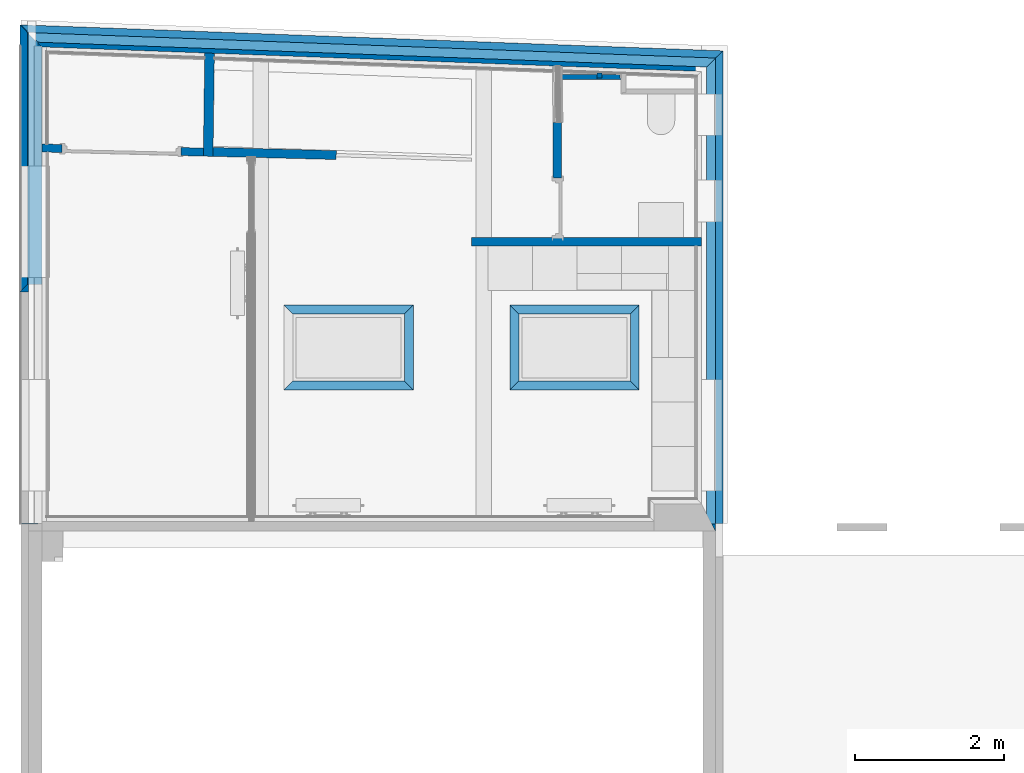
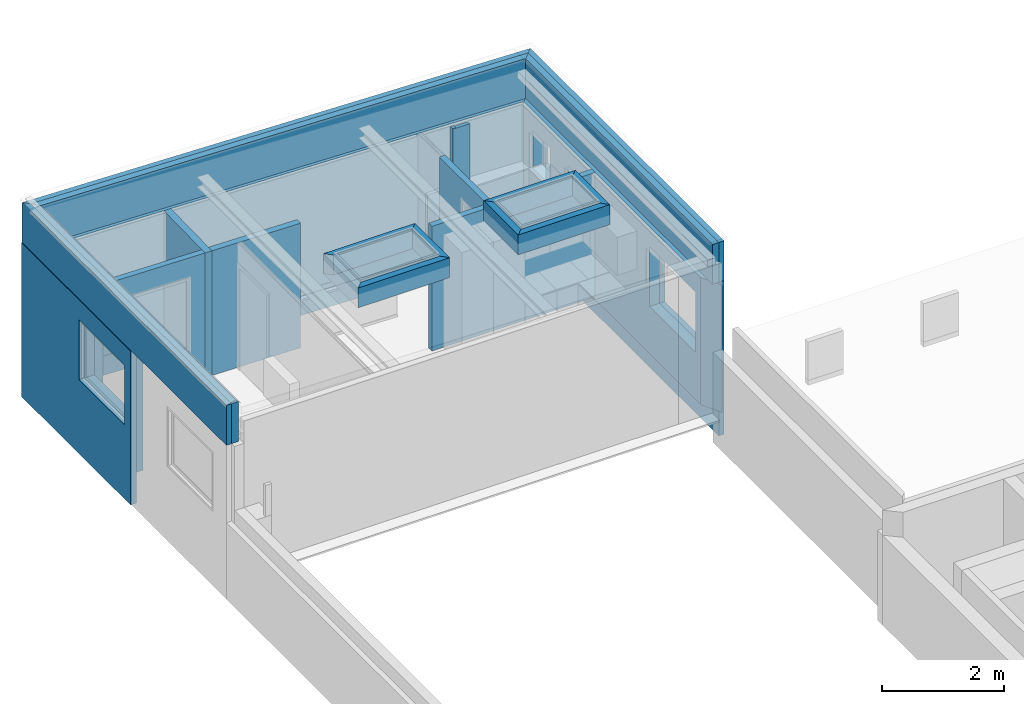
# One storey, part 5 of 23: 28 walls, 10 openings.
"""IFC2X3 building model written with IfcOpenShell, lengths in metres."""

from ifc_helpers import new_model, entity, si_unit, converted_unit, derived_unit, money_unit, direction, frame, frame_2d, origin_with_axes, place, context, subcontext, project, spatial, polyline, rectangle, outline, extrude, faceted_brep, material, layer, layer_set, layer_usage, type_object, element, save


model = new_model("IFC2X3")

# Units and contexts
model_context = context("Model", 3, precision=1e-05, world=origin_with_axes(), true_north=direction((0.0, 1.0)))
body_context = subcontext(model_context, "Body", "Model", "MODEL_VIEW", scale=1.0)
ifc_project = project(units=[si_unit("LENGTHUNIT", "METRE"), si_unit("AREAUNIT", "SQUARE_METRE"), si_unit("VOLUMEUNIT", "CUBIC_METRE"), si_unit("ABSORBEDDOSEUNIT", "GRAY"), si_unit("AMOUNTOFSUBSTANCEUNIT", "MOLE"), si_unit("DOSEEQUIVALENTUNIT", "SIEVERT"), si_unit("ELECTRICCAPACITANCEUNIT", "FARAD"), si_unit("ELECTRICCHARGEUNIT", "COULOMB"), si_unit("ELECTRICCONDUCTANCEUNIT", "SIEMENS"), si_unit("ELECTRICCURRENTUNIT", "AMPERE"), si_unit("ELECTRICRESISTANCEUNIT", "OHM"), si_unit("ELECTRICVOLTAGEUNIT", "VOLT"), si_unit("ENERGYUNIT", "JOULE"), si_unit("FORCEUNIT", "NEWTON"), si_unit("FREQUENCYUNIT", "HERTZ"), si_unit("ILLUMINANCEUNIT", "LUX"), si_unit("INDUCTANCEUNIT", "HENRY"), si_unit("LUMINOUSFLUXUNIT", "LUMEN"), si_unit("LUMINOUSINTENSITYUNIT", "CANDELA"), si_unit("MAGNETICFLUXDENSITYUNIT", "TESLA"), si_unit("MAGNETICFLUXUNIT", "WEBER"), si_unit("MASSUNIT", "GRAM"), converted_unit("PLANEANGLEUNIT", "degree", entity("IfcReal", 0.0174532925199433), si_unit("PLANEANGLEUNIT", "RADIAN"), dimensions=[0, 0, 0, 0, 0, 0, 0]), si_unit("POWERUNIT", "WATT"), si_unit("PRESSUREUNIT", "PASCAL"), si_unit("RADIOACTIVITYUNIT", "BECQUEREL"), si_unit("SOLIDANGLEUNIT", "STERADIAN"), si_unit("THERMODYNAMICTEMPERATUREUNIT", "KELVIN"), si_unit("TIMEUNIT", "SECOND"), derived_unit("ACCELERATIONUNIT", [(si_unit("LENGTHUNIT", "METRE"), 1), (si_unit("TIMEUNIT", "SECOND"), -2)]), derived_unit("ANGULARVELOCITYUNIT", [(converted_unit("PLANEANGLEUNIT", "degree", entity("IfcReal", 0.0174532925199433), si_unit("PLANEANGLEUNIT", "RADIAN"), dimensions=[0, 0, 0, 0, 0, 0, 0]), 1), (si_unit("TIMEUNIT", "SECOND"), -1)]), derived_unit("CURVATUREUNIT", [(converted_unit("PLANEANGLEUNIT", "degree", entity("IfcReal", 0.0174532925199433), si_unit("PLANEANGLEUNIT", "RADIAN"), dimensions=[0, 0, 0, 0, 0, 0, 0]), 1), (si_unit("LENGTHUNIT", "METRE"), -1)]), derived_unit("DYNAMICVISCOSITYUNIT", [(si_unit("PRESSUREUNIT", "PASCAL"), 1), (si_unit("TIMEUNIT", "SECOND"), 1)]), derived_unit("HEATFLUXDENSITYUNIT", [(si_unit("POWERUNIT", "WATT"), 1), (si_unit("LENGTHUNIT", "METRE"), -2)]), derived_unit("HEATINGVALUEUNIT", [(si_unit("ENERGYUNIT", "JOULE"), 1), (si_unit("MASSUNIT", "GRAM"), -1)]), derived_unit("INTEGERCOUNTRATEUNIT", [(si_unit("TIMEUNIT", "SECOND"), -1)]), derived_unit("IONCONCENTRATIONUNIT", [(si_unit("MASSUNIT", "GRAM"), 1), (si_unit("VOLUMEUNIT", "CUBIC_METRE"), -1)]), derived_unit("ISOTHERMALMOISTURECAPACITYUNIT", [(si_unit("VOLUMEUNIT", "CUBIC_METRE"), 1), (si_unit("MASSUNIT", "GRAM"), -1)]), derived_unit("KINEMATICVISCOSITYUNIT", [(si_unit("AREAUNIT", "SQUARE_METRE"), 1), (si_unit("TIMEUNIT", "SECOND"), -1)]), derived_unit("LINEARFORCEUNIT", [(si_unit("FORCEUNIT", "NEWTON"), 1), (si_unit("LENGTHUNIT", "METRE"), -1)]), derived_unit("LINEARMOMENTUNIT", [(si_unit("FORCEUNIT", "NEWTON"), 1), (si_unit("LENGTHUNIT", "METRE"), -1)]), derived_unit("LINEARSTIFFNESSUNIT", [(si_unit("FORCEUNIT", "NEWTON"), 1), (si_unit("LENGTHUNIT", "METRE"), -1)]), derived_unit("LINEARVELOCITYUNIT", [(si_unit("LENGTHUNIT", "METRE"), 1), (si_unit("TIMEUNIT", "SECOND"), -1)]), derived_unit("LUMINOUSINTENSITYDISTRIBUTIONUNIT", [(si_unit("LUMINOUSINTENSITYUNIT", "CANDELA"), 1), (si_unit("LUMINOUSFLUXUNIT", "LUMEN"), -1)]), derived_unit("MASSDENSITYUNIT", [(si_unit("MASSUNIT", "GRAM"), 1), (si_unit("VOLUMEUNIT", "CUBIC_METRE"), -1)]), derived_unit("MASSFLOWRATEUNIT", [(si_unit("MASSUNIT", "GRAM"), 1), (si_unit("TIMEUNIT", "SECOND"), -1)]), derived_unit("MASSPERLENGTHUNIT", [(si_unit("MASSUNIT", "GRAM"), 1), (si_unit("LENGTHUNIT", "METRE"), -1)]), derived_unit("MODULUSOFELASTICITYUNIT", [(si_unit("FORCEUNIT", "NEWTON"), 1), (si_unit("AREAUNIT", "SQUARE_METRE"), -1)]), derived_unit("MODULUSOFLINEARSUBGRADEREACTIONUNIT", [(si_unit("FORCEUNIT", "NEWTON"), 1), (si_unit("LENGTHUNIT", "METRE"), -2)]), derived_unit("MODULUSOFROTATIONALSUBGRADEREACTIONUNIT", [(si_unit("FORCEUNIT", "NEWTON"), 1), (si_unit("LENGTHUNIT", "METRE"), 1)]), derived_unit("MODULUSOFSUBGRADEREACTIONUNIT", [(si_unit("FORCEUNIT", "NEWTON"), 1), (si_unit("VOLUMEUNIT", "CUBIC_METRE"), -1)]), derived_unit("MOISTUREDIFFUSIVITYUNIT", [(si_unit("VOLUMEUNIT", "CUBIC_METRE"), 1), (si_unit("TIMEUNIT", "SECOND"), -1)]), derived_unit("MOLECULARWEIGHTUNIT", [(si_unit("MASSUNIT", "GRAM"), 1), (si_unit("AMOUNTOFSUBSTANCEUNIT", "MOLE"), -1)]), derived_unit("PLANARFORCEUNIT", [(si_unit("FORCEUNIT", "NEWTON"), 1), (si_unit("LENGTHUNIT", "METRE"), -2)]), derived_unit("ROTATIONALFREQUENCYUNIT", [(si_unit("TIMEUNIT", "SECOND"), -1)]), derived_unit("ROTATIONALMASSUNIT", [(si_unit("MASSUNIT", "GRAM"), 1), (si_unit("LENGTHUNIT", "METRE"), 2)]), derived_unit("ROTATIONALSTIFFNESSUNIT", [(si_unit("FORCEUNIT", "NEWTON"), 1), (si_unit("LENGTHUNIT", "METRE"), 1), (converted_unit("PLANEANGLEUNIT", "degree", entity("IfcReal", 0.0174532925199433), si_unit("PLANEANGLEUNIT", "RADIAN"), dimensions=[0, 0, 0, 0, 0, 0, 0]), -1)]), derived_unit("SECTIONAREAINTEGRALUNIT", [(si_unit("LENGTHUNIT", "METRE"), 5)]), derived_unit("SECTIONMODULUSUNIT", [(si_unit("LENGTHUNIT", "METRE"), 3)]), derived_unit("SHEARMODULUSUNIT", [(si_unit("FORCEUNIT", "NEWTON"), 1), (si_unit("AREAUNIT", "SQUARE_METRE"), -1)]), derived_unit("SOUNDPOWERUNIT", [(si_unit("ENERGYUNIT", "JOULE"), 1), (si_unit("TIMEUNIT", "SECOND"), -1)]), derived_unit("SPECIFICHEATCAPACITYUNIT", [(si_unit("FORCEUNIT", "NEWTON"), 1), (si_unit("MASSUNIT", "GRAM"), -1), (si_unit("THERMODYNAMICTEMPERATUREUNIT", "KELVIN"), -1)]), derived_unit("TEMPERATUREGRADIENTUNIT", [(si_unit("THERMODYNAMICTEMPERATUREUNIT", "KELVIN"), 1), (si_unit("LENGTHUNIT", "METRE"), -1)]), derived_unit("THERMALADMITTANCEUNIT", [(si_unit("POWERUNIT", "WATT"), 1), (si_unit("AREAUNIT", "SQUARE_METRE"), -1), (si_unit("THERMODYNAMICTEMPERATUREUNIT", "KELVIN"), -1)]), derived_unit("THERMALCONDUCTANCEUNIT", [(si_unit("POWERUNIT", "WATT"), 1), (si_unit("LENGTHUNIT", "METRE"), -1), (si_unit("THERMODYNAMICTEMPERATUREUNIT", "KELVIN"), -1)]), derived_unit("THERMALEXPANSIONCOEFFICIENTUNIT", [(si_unit("THERMODYNAMICTEMPERATUREUNIT", "KELVIN"), -1)]), derived_unit("THERMALRESISTANCEUNIT", [(si_unit("AREAUNIT", "SQUARE_METRE"), 1), (si_unit("POWERUNIT", "WATT"), -1)]), derived_unit("THERMALTRANSMITTANCEUNIT", [(si_unit("POWERUNIT", "WATT"), 1), (si_unit("AREAUNIT", "SQUARE_METRE"), -1), (si_unit("THERMODYNAMICTEMPERATUREUNIT", "KELVIN"), -1)]), derived_unit("TORQUEUNIT", [(si_unit("FORCEUNIT", "NEWTON"), 1), (si_unit("LENGTHUNIT", "METRE"), 1)]), derived_unit("VAPORPERMEABILITYUNIT", [(si_unit("MASSUNIT", "GRAM"), 1), (si_unit("TIMEUNIT", "SECOND"), -1)]), derived_unit("VOLUMETRICFLOWRATEUNIT", [(si_unit("VOLUMEUNIT", "CUBIC_METRE"), 1), (si_unit("TIMEUNIT", "SECOND"), -1)]), derived_unit("WARPINGCONSTANTUNIT", [(si_unit("LENGTHUNIT", "METRE"), 6)]), derived_unit("WARPINGMOMENTUNIT", [(si_unit("FORCEUNIT", "NEWTON"), 1), (si_unit("LENGTHUNIT", "METRE"), 2)]), money_unit("GBP")], contexts=[model_context])

# Site, building, storey
site_placement = place(None, origin_with_axes())
site = spatial("IfcSite", under=ifc_project, at=site_placement, Name="Site", CompositionType="ELEMENT")
building_placement = place(site_placement, origin_with_axes())
building = spatial("IfcBuilding", under=site, at=building_placement, Name="Building01", CompositionType="ELEMENT")
storey_placement = place(building_placement, frame((0.0, 0.0, 2.6), z_axis=(0.0, 0.0, 1.0), x_axis=(1.0, 0.0, 0.0)))
storey = spatial("IfcBuildingStorey", under=building, at=storey_placement, Name="MF", CompositionType="ELEMENT", Elevation=2.6)

# Wall
ifc_material_1 = material(Name="A_BSUK_WallsExternal_Brick")
ifc_layer_1 = layer(ifc_material_1, 0.1, ventilated=False)
ifc_layer_set_1 = layer_set([ifc_layer_1])
ifc_layer_usage_1 = layer_usage(ifc_layer_set_1, "AXIS2", "POSITIVE", 0.0)
wall_type_1 = type_object("IfcWallType", Name="A-Walls-ExternalBrick", PredefinedType="NOTDEFINED")
wall_1_placement = place(storey_placement, frame((9.443038, 21.262425, 0.0), z_axis=(0.0, 0.0, 1.0), x_axis=(-0.99931258, 0.03707243, 0.0)))
element("IfcWallStandardCase", 1, at=wall_1_placement, inside=storey, type_object=wall_type_1, material=ifc_layer_usage_1, Name="A-Walls-ExternalBrick", ObjectType="A-Walls-ExternalBrick", context=body_context, shape_type="SweptSolid", body=[
    extrude(outline(polyline([(9.359448, 0.1), (0.096359, 0.1), (0.0, 0.0), (9.463227, 0.0), (9.359448, 0.1)])), origin_with_axes(), (0.0, 0.0, 1.0), 3.085),
])

# Wall, opening
wall_2_placement = place(storey_placement, frame((-0.013684, 21.61325, 0.0), z_axis=(0.0, 0.0, 1.0), x_axis=(0.0, -1.0, 0.0)))
wall_2 = element("IfcWallStandardCase", 2, at=wall_2_placement, inside=storey, type_object=wall_type_1, material=ifc_layer_usage_1, Name="A-Walls-ExternalBrick", ObjectType="A-Walls-ExternalBrick", context=body_context, shape_type="SweptSolid", body=[
    extrude(outline(polyline([(3.493021, 0.1), (0.103779, 0.1), (0.0, 0.0), (3.593021, 0.0), (3.493021, 0.1)])), origin_with_axes(), (0.0, 0.0, 1.0), 3.085),
])
opening_1_placement = place(wall_2_placement, frame((1.899002, 0.0, 1.485), z_axis=(0.0, 0.0, 1.0), x_axis=(1.0, 0.0, 0.0)))
element("IfcOpeningElement", 3, at=opening_1_placement, cuts=wall_2, Name="Opening", ObjectType="Opening", context=body_context, shape_type="SweptSolid", body=[
    extrude(rectangle(XDim=1.2, YDim=1.5, at=frame_2d((-0.75, 0.6), x_axis=(0.0, -1.0))), frame((0.0, 0.0, 0.0), z_axis=(0.0, 1.0, 0.0), x_axis=(-1.0, 0.0, 0.0)), (0.0, 0.0, 1.0), 0.1),
])

# Wall
wall_3_placement = place(storey_placement, frame((-0.013684, 18.020229, 0.0), z_axis=(0.0, 0.0, 1.0), x_axis=(1.0, 0.0, 0.0)))
element("IfcWallStandardCase", 4, at=wall_3_placement, inside=storey, type_object=wall_type_1, material=ifc_layer_usage_1, Name="A-Walls-ExternalBrick", ObjectType="A-Walls-ExternalBrick", context=body_context, shape_type="SweptSolid", body=[
    extrude(outline(polyline([(0.114362, 0.1), (0.1, 0.1), (0.0, 0.0), (0.114362, 0.0), (0.114362, 0.1)])), origin_with_axes(), (0.0, 0.0, 1.0), 3.085),
])

# Wall, openings
wall_4_placement = place(storey_placement, frame((9.343038, 21.166066, 0.0), z_axis=(0.0, 0.0, 1.0), x_axis=(0.0, -1.0, 0.0)))
wall_4 = element("IfcWallStandardCase", 5, at=wall_4_placement, inside=storey, type_object=wall_type_1, material=ifc_layer_usage_1, Name="A-Walls-ExternalBrick", ObjectType="A-Walls-ExternalBrick", context=body_context, shape_type="SweptSolid", body=[
    extrude(outline(polyline([(6.265024, 0.1), (-0.096359, 0.1), (0.0, 0.0), (6.265024, 0.0), (6.265024, 0.1)])), origin_with_axes(), (0.0, 0.0, 1.0), 3.085),
])
opening_2_placement = place(wall_4_placement, frame((4.323276, 0.0, 1.485), z_axis=(0.0, 0.0, 1.0), x_axis=(1.0, 0.0, 0.0)))
element("IfcOpeningElement", 6, at=opening_2_placement, cuts=wall_4, Name="Opening", ObjectType="Opening", context=body_context, shape_type="SweptSolid", body=[
    extrude(rectangle(XDim=1.2, YDim=1.5, at=frame_2d((-0.75, 0.6), x_axis=(0.0, -1.0))), frame((0.0, 0.0, 0.0), z_axis=(0.0, 1.0, 0.0), x_axis=(-1.0, 0.0, 0.0)), (0.0, 0.0, 1.0), 0.1),
])
opening_3_placement = place(wall_4_placement, frame((1.643772, 0.0, 1.935), z_axis=(0.0, 0.0, 1.0), x_axis=(1.0, 0.0, 0.0)))
element("IfcOpeningElement", 7, at=opening_3_placement, cuts=wall_4, Name="Opening", ObjectType="Opening", context=body_context, shape_type="SweptSolid", body=[
    extrude(rectangle(XDim=0.75, YDim=0.56, at=frame_2d((-0.28, 0.375), x_axis=(0.0, -1.0))), frame((0.0, 0.0, 0.0), z_axis=(0.0, 1.0, 0.0), x_axis=(-1.0, 0.0, 0.0)), (0.0, 0.0, 1.0), 0.1),
])
opening_4_placement = place(wall_4_placement, frame((0.482163, 0.0, 1.935), z_axis=(0.0, 0.0, 1.0), x_axis=(1.0, 0.0, 0.0)))
element("IfcOpeningElement", 8, at=opening_4_placement, cuts=wall_4, Name="Opening", ObjectType="Opening", context=body_context, shape_type="SweptSolid", body=[
    extrude(rectangle(XDim=0.75, YDim=0.56, at=frame_2d((-0.28, 0.375), x_axis=(0.0, -1.0))), frame((0.0, 0.0, 0.0), z_axis=(0.0, 1.0, 0.0), x_axis=(-1.0, 0.0, 0.0)), (0.0, 0.0, 1.0), 0.1),
])

# Walls
wall_5_placement = place(storey_placement, frame((0.100627, 14.898004, 3.085), z_axis=(0.0, 0.0, 1.0), x_axis=(0.0, 1.0, 0.0)))
element("IfcWallStandardCase", 9, at=wall_5_placement, inside=storey, type_object=wall_type_1, material=ifc_layer_usage_1, Name="A-Walls-ExternalBrick", ObjectType="A-Walls-ExternalBrick", context=body_context, shape_type="SweptSolid", body=[
    extrude(outline(polyline([(6.714638, 0.1), (0.0, 0.1), (0.0, 0.0), (6.61086, 0.0), (6.714638, 0.1)])), origin_with_axes(), (0.0, 0.0, 1.0), 0.8),
])
wall_6_placement = place(storey_placement, frame((0.100627, 21.508863, 3.085), z_axis=(0.0, 0.0, 1.0), x_axis=(0.99931262, -0.03707143, 0.0)))
element("IfcWallStandardCase", 10, at=wall_6_placement, inside=storey, type_object=wall_type_1, material=ifc_layer_usage_1, Name="A-Walls-ExternalBrick", ObjectType="A-Walls-ExternalBrick", context=body_context, shape_type="SweptSolid", body=[
    extrude(outline(polyline([(9.345366, 0.1), (-0.103778, 0.1), (0.0, 0.0), (9.249004, 0.0), (9.345366, 0.1)])), origin_with_axes(), (0.0, 0.0, 1.0), 0.8),
])
wall_7_placement = place(storey_placement, frame((9.343273, 21.16599, 3.085), z_axis=(0.0, 0.0, 1.0), x_axis=(-3.756e-05, -1.0, 0.0)))
element("IfcWallStandardCase", 11, at=wall_7_placement, inside=storey, type_object=wall_type_1, material=ifc_layer_usage_1, Name="A-Walls-ExternalBrick", ObjectType="A-Walls-ExternalBrick", context=body_context, shape_type="SweptSolid", body=[
    extrude(outline(polyline([(-0.096363, 0.1), (0.0, 0.0), (6.268329, 0.0), (6.268329, 0.1), (-0.096363, 0.1)])), origin_with_axes(), (0.0, 0.0, 1.0), 0.8),
])
ifc_material_2 = material(Name="A_BSUK_WallsExternal_Block")
ifc_layer_2 = layer(ifc_material_2, 0.187, ventilated=False)
ifc_layer_set_2 = layer_set([ifc_layer_2])
ifc_layer_usage_2 = layer_usage(ifc_layer_set_2, "AXIS2", "POSITIVE", 0.0)
wall_type_2 = type_object("IfcWallType", Name="A-Walls-ExternalBlock", PredefinedType="NOTDEFINED")
wall_8_placement = place(storey_placement, frame((9.343265, 21.166058, 0.535), z_axis=(0.0, 0.0, 1.0), x_axis=(-0.99931258, 0.03707243, 0.0)))
element("IfcWallStandardCase", 12, at=wall_8_placement, inside=storey, type_object=wall_type_2, material=ifc_layer_usage_2, Name="A-Walls-ExternalBlock", ObjectType="A-Walls-ExternalBlock", context=body_context, shape_type="SweptSolid", body=[
    extrude(outline(polyline([(9.061665, 0.187), (0.182193, 0.187), (0.0, 0.0), (9.263736, 0.0), (9.061665, 0.187)])), origin_with_axes(), (0.0, 0.0, 1.0), 2.55),
])

# Wall, opening
ifc_layer_3 = layer(ifc_material_2, 0.195, ventilated=False)
ifc_layer_set_3 = layer_set([ifc_layer_3])
ifc_layer_usage_3 = layer_usage(ifc_layer_set_3, "AXIS2", "POSITIVE", 0.0)
wall_9_placement = place(storey_placement, frame((0.280897, 18.120222, 0.535), z_axis=(0.0, 0.0, 1.0), x_axis=(0.0, 1.0, 0.0)))
wall_9 = element("IfcWallStandardCase", 13, at=wall_9_placement, inside=storey, type_object=wall_type_2, material=ifc_layer_usage_3, Name="A-Walls-ExternalBlock", ObjectType="A-Walls-ExternalBlock", context=body_context, shape_type="SweptSolid", body=[
    extrude(outline(polyline([(3.389265, 0.195), (0.0, 0.195), (0.0, 0.0), (3.194902, 0.0), (3.389265, 0.195)])), origin_with_axes(), (0.0, 0.0, 1.0), 2.55),
])
opening_5_placement = place(wall_9_placement, frame((0.094026, 0.0, 0.95), z_axis=(0.0, 0.0, 1.0), x_axis=(1.0, 0.0, 0.0)))
element("IfcOpeningElement", 14, at=opening_5_placement, cuts=wall_9, Name="Opening", ObjectType="Opening", context=body_context, shape_type="SweptSolid", body=[
    extrude(rectangle(XDim=1.2, YDim=1.5, at=frame_2d((-0.75, 0.6), x_axis=(0.0, -1.0))), frame((0.0, 0.0, 0.0), z_axis=(0.0, 1.0, 0.0), x_axis=(-1.0, 0.0, 0.0)), (0.0, 0.0, 1.0), 0.195),
])

# Wall, openings
ifc_layer_4 = layer(ifc_material_2, 0.189, ventilated=False)
ifc_layer_set_4 = layer_set([ifc_layer_4])
ifc_layer_usage_4 = layer_usage(ifc_layer_set_4, "AXIS2", "POSITIVE", 0.0)
wall_10_placement = place(storey_placement, frame((9.343265, 14.8, 0.535), z_axis=(0.0, 0.0, 1.0), x_axis=(0.0, 1.0, 0.0)))
wall_10 = element("IfcWallStandardCase", 15, at=wall_10_placement, inside=storey, type_object=wall_type_2, material=ifc_layer_usage_4, Name="A-Walls-ExternalBlock", ObjectType="A-Walls-ExternalBlock", context=body_context, shape_type="SweptSolid", body=[
    extrude(outline(polyline([(6.185941, 0.189), (0.368, 0.189), (0.0, 0.0), (6.366058, 0.0), (6.185941, 0.189)])), origin_with_axes(), (0.0, 0.0, 1.0), 2.55),
])
opening_6_placement = place(wall_10_placement, frame((0.54279, 0.0, 0.95), z_axis=(0.0, 0.0, 1.0), x_axis=(1.0, 0.0, 0.0)))
element("IfcOpeningElement", 16, at=opening_6_placement, cuts=wall_10, Name="Opening", ObjectType="Opening", context=body_context, shape_type="SweptSolid", body=[
    extrude(rectangle(XDim=1.2, YDim=1.5, at=frame_2d((-0.75, 0.6), x_axis=(0.0, -1.0))), frame((0.0, 0.0, 0.0), z_axis=(0.0, 1.0, 0.0), x_axis=(-1.0, 0.0, 0.0)), (0.0, 0.0, 1.0), 0.189),
])
opening_7_placement = place(wall_10_placement, frame((4.162294, 0.0, 1.4), z_axis=(0.0, 0.0, 1.0), x_axis=(1.0, 0.0, 0.0)))
element("IfcOpeningElement", 17, at=opening_7_placement, cuts=wall_10, Name="Opening", ObjectType="Opening", context=body_context, shape_type="SweptSolid", body=[
    extrude(rectangle(XDim=0.75, YDim=0.56, at=frame_2d((-0.28, 0.375), x_axis=(0.0, -1.0))), frame((0.0, 0.0, 0.0), z_axis=(0.0, 1.0, 0.0), x_axis=(-1.0, 0.0, 0.0)), (0.0, 0.0, 1.0), 0.189),
])
opening_8_placement = place(wall_10_placement, frame((5.323903, 0.0, 1.4), z_axis=(0.0, 0.0, 1.0), x_axis=(1.0, 0.0, 0.0)))
element("IfcOpeningElement", 18, at=opening_8_placement, cuts=wall_10, Name="Opening", ObjectType="Opening", context=body_context, shape_type="SweptSolid", body=[
    extrude(rectangle(XDim=0.75, YDim=0.56, at=frame_2d((-0.28, 0.375), x_axis=(0.0, -1.0))), frame((0.0, 0.0, 0.0), z_axis=(0.0, 1.0, 0.0), x_axis=(-1.0, 0.0, 0.0)), (0.0, 0.0, 1.0), 0.189),
])

# Walls
ifc_layer_5 = layer(ifc_material_2, 0.125, ventilated=False)
ifc_layer_set_5 = layer_set([ifc_layer_5])
ifc_layer_usage_5 = layer_usage(ifc_layer_set_5, "AXIS2", "POSITIVE", 0.0)
wall_11_placement = place(storey_placement, frame((0.225627, 14.898004, 3.085), z_axis=(0.0, 0.0, 1.0), x_axis=(0.0, 1.0, 0.0)))
element("IfcWallStandardCase", 19, at=wall_11_placement, inside=storey, type_object=wall_type_2, material=ifc_layer_usage_5, Name="A-Walls-ExternalBlock", ObjectType="A-Walls-ExternalBlock", context=body_context, shape_type="SweptSolid", body=[
    extrude(outline(polyline([(6.61086, 0.125), (0.0, 0.125), (0.0, 0.0), (6.481137, 0.0), (6.61086, 0.125)])), origin_with_axes(), (0.0, 0.0, 1.0), 0.8),
])
wall_12_placement = place(storey_placement, frame((0.225627, 21.37914, 3.085), z_axis=(0.0, 0.0, 1.0), x_axis=(0.99931262, -0.03707143, 0.0)))
element("IfcWallStandardCase", 20, at=wall_12_placement, inside=storey, type_object=wall_type_2, material=ifc_layer_usage_5, Name="A-Walls-ExternalBlock", ObjectType="A-Walls-ExternalBlock", context=body_context, shape_type="SweptSolid", body=[
    extrude(outline(polyline([(9.126502, 0.125), (-0.129723, 0.125), (0.0, 0.0), (9.006049, 0.0), (9.126502, 0.125)])), origin_with_axes(), (0.0, 0.0, 1.0), 0.8),
])
wall_13_placement = place(storey_placement, frame((9.225486, 21.045273, 3.085), z_axis=(0.0, 0.0, 1.0), x_axis=(-3.756e-05, -1.0, 0.0)))
element("IfcWallStandardCase", 21, at=wall_13_placement, inside=storey, type_object=wall_type_2, material=ifc_layer_usage_5, Name="A-Walls-ExternalBlock", ObjectType="A-Walls-ExternalBlock", context=body_context, shape_type="SweptSolid", body=[
    extrude(outline(polyline([(-0.120453, 0.125), (0.0, 0.0), (6.147608, 0.0), (6.147608, 0.125), (-0.120453, 0.125)])), origin_with_axes(), (0.0, 0.0, 1.0), 0.8),
])
ifc_layer_6 = layer(ifc_material_2, 0.12, ventilated=False)
ifc_layer_set_6 = layer_set([ifc_layer_6])
ifc_layer_usage_6 = layer_usage(ifc_layer_set_6, "AXIS2", "POSITIVE", 0.0)
wall_14_placement = place(storey_placement, frame((3.657414, 17.72, 3.51), z_axis=(0.0, 0.0, 1.0), x_axis=(1.0, 0.0, 0.0)))
element("IfcWallStandardCase", 22, at=wall_14_placement, inside=storey, type_object=wall_type_2, material=ifc_layer_usage_6, Name="A-Walls-ExternalBlock", ObjectType="A-Walls-ExternalBlock", context=body_context, shape_type="SweptSolid", body=[
    extrude(outline(polyline([(1.62, 0.12), (-0.12, 0.12), (0.0, 0.0), (1.5, 0.0), (1.62, 0.12)])), origin_with_axes(), (0.0, 0.0, 1.0), 0.4),
])
wall_15_placement = place(storey_placement, frame((5.157414, 17.72, 3.51), z_axis=(0.0, 0.0, 1.0), x_axis=(0.0, -1.0, 0.0)))
element("IfcWallStandardCase", 23, at=wall_15_placement, inside=storey, type_object=wall_type_2, material=ifc_layer_usage_6, Name="A-Walls-ExternalBlock", ObjectType="A-Walls-ExternalBlock", context=body_context, shape_type="SweptSolid", body=[
    extrude(outline(polyline([(1.02, 0.12), (-0.12, 0.12), (0.0, 0.0), (0.9, 0.0), (1.02, 0.12)])), origin_with_axes(), (0.0, 0.0, 1.0), 0.4),
])
wall_16_placement = place(storey_placement, frame((5.157414, 16.82, 3.51), z_axis=(0.0, 0.0, 1.0), x_axis=(-1.0, 0.0, 0.0)))
element("IfcWallStandardCase", 24, at=wall_16_placement, inside=storey, type_object=wall_type_2, material=ifc_layer_usage_6, Name="A-Walls-ExternalBlock", ObjectType="A-Walls-ExternalBlock", context=body_context, shape_type="SweptSolid", body=[
    extrude(outline(polyline([(1.62, 0.12), (-0.12, 0.12), (0.0, 0.0), (1.5, 0.0), (1.62, 0.12)])), origin_with_axes(), (0.0, 0.0, 1.0), 0.4),
])
wall_17_placement = place(storey_placement, frame((8.197414, 17.72, 3.51), z_axis=(0.0, 0.0, 1.0), x_axis=(0.0, -1.0, 0.0)))
element("IfcWallStandardCase", 25, at=wall_17_placement, inside=storey, type_object=wall_type_2, material=ifc_layer_usage_6, Name="A-Walls-ExternalBlock", ObjectType="A-Walls-ExternalBlock", context=body_context, shape_type="SweptSolid", body=[
    extrude(outline(polyline([(1.02, 0.12), (-0.12, 0.12), (0.0, 0.0), (0.9, 0.0), (1.02, 0.12)])), origin_with_axes(), (0.0, 0.0, 1.0), 0.4),
])
wall_18_placement = place(storey_placement, frame((8.197414, 16.82, 3.51), z_axis=(0.0, 0.0, 1.0), x_axis=(-1.0, 0.0, 0.0)))
element("IfcWallStandardCase", 26, at=wall_18_placement, inside=storey, type_object=wall_type_2, material=ifc_layer_usage_6, Name="A-Walls-ExternalBlock", ObjectType="A-Walls-ExternalBlock", context=body_context, shape_type="SweptSolid", body=[
    extrude(outline(polyline([(1.62, 0.12), (-0.12, 0.12), (0.0, 0.0), (1.5, 0.0), (1.62, 0.12)])), origin_with_axes(), (0.0, 0.0, 1.0), 0.4),
])
wall_19_placement = place(storey_placement, frame((6.697414, 16.82, 3.51), z_axis=(0.0, 0.0, 1.0), x_axis=(0.0, 1.0, 0.0)))
element("IfcWallStandardCase", 27, at=wall_19_placement, inside=storey, type_object=wall_type_2, material=ifc_layer_usage_6, Name="A-Walls-ExternalBlock", ObjectType="A-Walls-ExternalBlock", context=body_context, shape_type="SweptSolid", body=[
    extrude(outline(polyline([(1.02, 0.12), (-0.12, 0.12), (0.0, 0.0), (0.9, 0.0), (1.02, 0.12)])), origin_with_axes(), (0.0, 0.0, 1.0), 0.4),
])
wall_20_placement = place(storey_placement, frame((6.697414, 17.72, 3.51), z_axis=(0.0, 0.0, 1.0), x_axis=(1.0, 0.0, 0.0)))
element("IfcWallStandardCase", 28, at=wall_20_placement, inside=storey, type_object=wall_type_2, material=ifc_layer_usage_6, Name="A-Walls-ExternalBlock", ObjectType="A-Walls-ExternalBlock", context=body_context, shape_type="SweptSolid", body=[
    extrude(outline(polyline([(1.62, 0.12), (-0.12, 0.12), (0.0, 0.0), (1.5, 0.0), (1.62, 0.12)])), origin_with_axes(), (0.0, 0.0, 1.0), 0.4),
])
ifc_material_3 = material(Name="A_BSUK_WallsInternal")
ifc_layer_7 = layer(ifc_material_3, 0.13, ventilated=False)
ifc_layer_set_7 = layer_set([ifc_layer_7])
ifc_layer_usage_7 = layer_usage(ifc_layer_set_7, "AXIS2", "POSITIVE", 0.0)
wall_type_3 = type_object("IfcWallType", Name="A-Walls-Internal", PredefinedType="NOTDEFINED")
wall_21_placement = place(storey_placement, frame((2.47137, 21.233862, 0.585), z_axis=(0.0, 0.0, 1.0), x_axis=(-0.01343765, -0.99990971, 0.0)))
element("IfcWallStandardCase", 29, at=wall_21_placement, inside=storey, type_object=wall_type_3, material=ifc_layer_usage_7, Name="A-Walls-Internal", ObjectType="A-Walls-Internal", context=body_context, shape_type="SweptSolid", body=[
    extrude(outline(polyline([(1.389679, 0.13), (0.003074, 0.13), (0.0, 0.0), (1.388094, 0.0), (1.389679, 0.13)])), origin_with_axes(), (0.0, 0.0, 1.0), 2.5),
])

# Wall, opening
ifc_layer_8 = layer(ifc_material_3, 0.108, ventilated=False)
ifc_layer_set_8 = layer_set([ifc_layer_8])
ifc_layer_usage_8 = layer_usage(ifc_layer_set_8, "AXIS2", "POSITIVE", 0.0)
wall_22_placement = place(storey_placement, frame((0.280897, 19.90157, 0.585), z_axis=(0.0, 0.0, 1.0), x_axis=(0.99967157, -0.02562735, 0.0)))
wall_22 = element("IfcWallStandardCase", 30, at=wall_22_placement, inside=storey, type_object=wall_type_3, material=ifc_layer_usage_8, Name="A-Walls-Internal", ObjectType="A-Walls-Internal", context=body_context, shape_type="SweptSolid", body=[
    extrude(outline(polyline([(2.171217, 0.108), (-0.002769, 0.108), (0.0, 0.0), (2.172534, 0.0), (2.171217, 0.108)])), origin_with_axes(), (0.0, 0.0, 1.0), 2.5),
])
opening_9_placement = place(wall_22_placement, frame((0.266957, 0.0, 0.0), z_axis=(0.0, 0.0, 1.0), x_axis=(1.0, 0.0, 0.0)))
element("IfcOpeningElement", 31, at=opening_9_placement, cuts=wall_22, Name="Opening", ObjectType="Opening", context=body_context, shape_type="Brep", body=[
    faceted_brep([(1.604261, 0.0, 0.0), (1.604261, 0.0, 2.1), (0.000256, 0.0, 2.1), (0.000256, 0.0, 0.0), (1.604005, 0.108, 2.1), (1.604005, 0.108, 0.0), (0.0, 0.108, 0.0), (0.0, 0.108, 2.1)], [[[0, 1, 2, 3]], [[4, 5, 6, 7]], [[5, 0, 3, 6]], [[4, 1, 0, 5]], [[7, 2, 1, 4]], [[6, 3, 2, 7]]]),
])

# Wall
ifc_layer_9 = layer(ifc_material_3, 0.12, ventilated=False)
ifc_layer_set_9 = layer_set([ifc_layer_9])
ifc_layer_usage_9 = layer_usage(ifc_layer_set_9, "AXIS2", "POSITIVE", 0.0)
wall_23_placement = place(storey_placement, frame((2.582684, 19.842562, 0.585), z_axis=(0.0, 0.0, 1.0), x_axis=(0.99967157, -0.02562735, 0.0)))
element("IfcWallStandardCase", 32, at=wall_23_placement, inside=storey, type_object=wall_type_3, material=ifc_layer_usage_9, Name="A-Walls-Internal", ObjectType="A-Walls-Internal", context=body_context, shape_type="SweptSolid", body=[
    extrude(outline(polyline([(-0.001463, 0.12), (0.0, 0.0), (1.657189, 0.0), (1.657189, 0.12), (-0.001463, 0.12)])), origin_with_axes(), (0.0, 0.0, 1.0), 2.5),
])

# Wall, opening
ifc_layer_10 = layer(ifc_material_3, 0.113, ventilated=False)
ifc_layer_set_10 = layer_set([ifc_layer_10])
ifc_layer_usage_10 = layer_usage(ifc_layer_set_10, "AXIS2", "POSITIVE", 0.0)
wall_24_placement = place(storey_placement, frame((7.275966, 18.752607, 0.585), z_axis=(0.0, 0.0, 1.0), x_axis=(-0.00272299, 0.99999629, 0.0)))
wall_24 = element("IfcWallStandardCase", 33, at=wall_24_placement, inside=storey, type_object=wall_type_3, material=ifc_layer_usage_10, Name="A-Walls-Internal", ObjectType="A-Walls-Internal", context=body_context, shape_type="SweptSolid", body=[
    extrude(outline(polyline([(0.000308, 0.113), (0.0, 0.0), (1.549119, 0.0), (1.549119, 0.113), (0.000308, 0.113)])), origin_with_axes(), (0.0, 0.0, 1.0), 2.5),
])
opening_10_placement = place(wall_24_placement, origin_with_axes())
element("IfcOpeningElement", 34, at=opening_10_placement, cuts=wall_24, Name="Opening", ObjectType="Opening", context=body_context, shape_type="Brep", body=[
    faceted_brep([(0.799813, 0.113, 2.1), (0.799813, 0.113, 0.0), (0.000308, 0.113, 0.0), (0.000308, 0.113, 2.1), (0.0, 0.0, 2.1), (0.0, 0.0, 0.0), (0.799506, 0.0, 0.0), (0.799506, 0.0, 2.1)], [[[0, 1, 2, 3]], [[4, 3, 2, 5]], [[6, 7, 4, 5]], [[1, 6, 5, 2]], [[0, 7, 6, 1]], [[4, 7, 0, 3]]]),
])

# Walls
wall_25_placement = place(storey_placement, frame((6.06243, 18.639607, 0.585), z_axis=(0.0, 0.0, 1.0), x_axis=(1.0, 0.0, 0.0)))
element("IfcWallStandardCase", 35, at=wall_25_placement, inside=storey, type_object=wall_type_3, material=ifc_layer_usage_10, Name="A-Walls-Internal", ObjectType="A-Walls-Internal", context=body_context, shape_type="SweptSolid", body=[
    extrude(rectangle(XDim=3.091835, YDim=0.113, at=frame_2d((1.545917, 0.0565), x_axis=(-1.0, 0.0))), origin_with_axes(), (0.0, 0.0, 1.0), 2.5),
])
ifc_material_4 = material(Name="A_BSUK_OpeningsClearance")
ifc_layer_11 = layer(ifc_material_4, 0.05, ventilated=False)
ifc_material_5 = material(Name="A_BSUK_Walls_Timber")
ifc_layer_12 = layer(ifc_material_5, 0.015, ventilated=False)
ifc_layer_set_11 = layer_set([ifc_layer_11, ifc_layer_12])
ifc_layer_usage_11 = layer_usage(ifc_layer_set_11, "AXIS2", "POSITIVE", 0.0)
wall_type_4 = type_object("IfcWallType", Name="SHE_A-Walls_Type05c_PreWallShell_65mm", PredefinedType="NOTDEFINED")
wall_26_placement = place(storey_placement, frame((7.813799, 20.89411, 0.585), z_axis=(0.0, 0.0, 1.0), x_axis=(0.0, 1.0, 0.0)))
element("IfcWallStandardCase", 36, at=wall_26_placement, inside=storey, type_object=wall_type_4, material=ifc_layer_usage_11, Name="5C", ObjectType="SHE_A-Walls_Type05c_PreWallShell_65mm", context=body_context, shape_type="SweptSolid", body=[
    extrude(outline(polyline([(0.071933, 0.065), (0.0, 0.065), (0.0, 0.0), (0.069522, 0.0), (0.071933, 0.065)])), origin_with_axes(), (0.0, 0.0, 1.0), 2.5),
])
wall_27_placement = place(storey_placement, frame((8.059417, 20.94411, 0.585), z_axis=(0.0, 0.0, 1.0), x_axis=(-1.0, 0.0, 0.0)))
element("IfcWallStandardCase", 37, at=wall_27_placement, inside=storey, type_object=wall_type_4, material=ifc_layer_usage_11, Name="5C", ObjectType="SHE_A-Walls_Type05c_PreWallShell_65mm", context=body_context, shape_type="SweptSolid", body=[
    extrude(outline(polyline([(0.245618, 0.05), (0.310618, 0.05), (0.310618, 0.065), (-0.015, 0.065), (-0.015, 0.05), (0.0, 0.05), (0.0, 0.0), (0.245618, 0.0), (0.245618, 0.05)])), origin_with_axes(), (0.0, 0.0, 1.0), 2.5),
])
wall_28_placement = place(storey_placement, frame((7.763799, 20.94411, 0.585), z_axis=(0.0, 0.0, 1.0), x_axis=(-1.0, 0.0, 0.0)))
element("IfcWallStandardCase", 38, at=wall_28_placement, inside=storey, type_object=wall_type_4, material=ifc_layer_usage_11, Name="5C", ObjectType="SHE_A-Walls_Type05c_PreWallShell_65mm", context=body_context, shape_type="SweptSolid", body=[
    extrude(outline(polyline([(0.496537, 0.065), (0.015, 0.065), (0.015, 0.05), (0.0, 0.05), (0.0, 0.0), (0.497251, 0.0), (0.496537, 0.065)])), origin_with_axes(), (0.0, 0.0, 1.0), 1.35),
])

save(model, "model.ifc")
